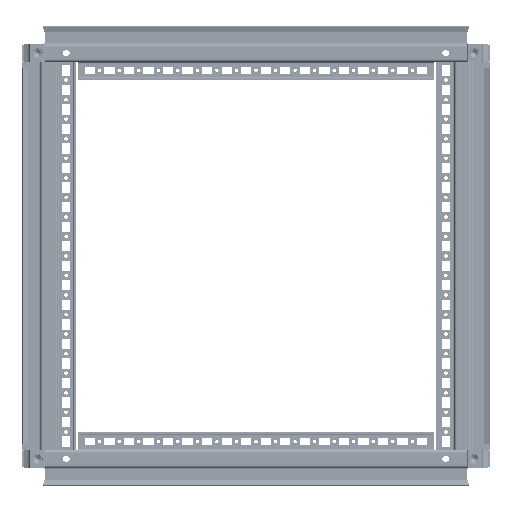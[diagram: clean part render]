
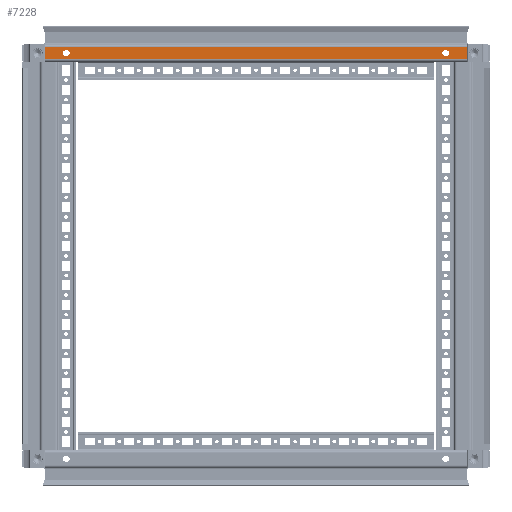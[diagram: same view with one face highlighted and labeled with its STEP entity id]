
A CAD part, front view. The second image highlights one B-rep face of the part: STEP entity #7228.
In plain terms, the highlighted planar face has unit normal (0, -1, 0) as drawn and (-1, 0, 0) by its records, which use the part's own axes.
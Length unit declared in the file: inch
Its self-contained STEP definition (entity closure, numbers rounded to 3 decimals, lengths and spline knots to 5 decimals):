
#231 = CARTESIAN_POINT ( 'NONE',  ( -0.09843, -0.31496, -10.64961 ) ) ;
#279 = CARTESIAN_POINT ( 'NONE',  ( -0.09843, 0.31496, -10.64961 ) ) ;
#284 = DIRECTION ( 'NONE',  ( 0., 1., 0. ) ) ;
#285 = VECTOR ( 'NONE', #284, 39.37008 ) ;
#286 = CARTESIAN_POINT ( 'NONE',  ( -0.09843, -1.07792, -10.64961 ) ) ;
#287 = LINE ( 'NONE', #286, #285 ) ;
#4942 = VERTEX_POINT ( 'NONE', #32457 ) ;
#4944 = EDGE_CURVE ( 'NONE', #4942, #4945, #32454, .T. ) ;
#4945 = VERTEX_POINT ( 'NONE', #32447 ) ;
#7180 = EDGE_LOOP ( 'NONE', ( #7181, #7281, #7282, #7284 ) ) ;
#7181 = ORIENTED_EDGE ( 'NONE', *, *, #7224, .T. ) ;
#7183 = ORIENTED_EDGE ( 'NONE', *, *, #7185, .F. ) ;
#7185 = EDGE_CURVE ( 'NONE', #7188, #7190, #34380, .T. ) ;
#7188 = VERTEX_POINT ( 'NONE', #34376 ) ;
#7190 = VERTEX_POINT ( 'NONE', #34375 ) ;
#7192 = ORIENTED_EDGE ( 'NONE', *, *, #7193, .F. ) ;
#7193 = EDGE_CURVE ( 'NONE', #7194, #7188, #34374, .T. ) ;
#7194 = VERTEX_POINT ( 'NONE', #34369 ) ;
#7195 = ORIENTED_EDGE ( 'NONE', *, *, #7196, .F. ) ;
#7196 = EDGE_CURVE ( 'NONE', #8957, #7194, #34368, .T. ) ;
#7198 = ORIENTED_EDGE ( 'NONE', *, *, #8956, .F. ) ;
#7201 = ORIENTED_EDGE ( 'NONE', *, *, #7203, .F. ) ;
#7203 = EDGE_CURVE ( 'NONE', #7190, #8954, #34362, .T. ) ;
#7204 = EDGE_LOOP ( 'NONE', ( #7205, #7308, #7315, #7317, #7318 ) ) ;
#7205 = ORIENTED_EDGE ( 'NONE', *, *, #7302, .F. ) ;
#7224 = EDGE_CURVE ( 'NONE', #4942, #19059, #34422, .T. ) ;
#7228 = ADVANCED_FACE ( 'NONE', ( #34418, #34417, #34416 ), #34415, .F. ) ;
#7230 = EDGE_LOOP ( 'NONE', ( #7183, #7192, #7195, #7198, #7201 ) ) ;
#7281 = ORIENTED_EDGE ( 'NONE', *, *, #19056, .F. ) ;
#7282 = ORIENTED_EDGE ( 'NONE', *, *, #7283, .F. ) ;
#7283 = EDGE_CURVE ( 'NONE', #4945, #19040, #34446, .T. ) ;
#7284 = ORIENTED_EDGE ( 'NONE', *, *, #4944, .F. ) ;
#7302 = EDGE_CURVE ( 'NONE', #7304, #7306, #34502, .T. ) ;
#7304 = VERTEX_POINT ( 'NONE', #34498 ) ;
#7306 = VERTEX_POINT ( 'NONE', #34497 ) ;
#7308 = ORIENTED_EDGE ( 'NONE', *, *, #7310, .F. ) ;
#7310 = EDGE_CURVE ( 'NONE', #7313, #7304, #34496, .T. ) ;
#7313 = VERTEX_POINT ( 'NONE', #34491 ) ;
#7315 = ORIENTED_EDGE ( 'NONE', *, *, #7316, .F. ) ;
#7316 = EDGE_CURVE ( 'NONE', #8942, #7313, #34490, .T. ) ;
#7317 = ORIENTED_EDGE ( 'NONE', *, *, #8941, .F. ) ;
#7318 = ORIENTED_EDGE ( 'NONE', *, *, #7320, .F. ) ;
#7320 = EDGE_CURVE ( 'NONE', #7306, #8939, #34486, .T. ) ;
#8939 = VERTEX_POINT ( 'NONE', #42643 ) ;
#8941 = EDGE_CURVE ( 'NONE', #8939, #8942, #42642, .T. ) ;
#8942 = VERTEX_POINT ( 'NONE', #42637 ) ;
#8954 = VERTEX_POINT ( 'NONE', #42607 ) ;
#8956 = EDGE_CURVE ( 'NONE', #8954, #8957, #42606, .T. ) ;
#8957 = VERTEX_POINT ( 'NONE', #42669 ) ;
#19040 = VERTEX_POINT ( 'NONE', #231 ) ;
#19056 = EDGE_CURVE ( 'NONE', #19040, #19059, #287, .T. ) ;
#19059 = VERTEX_POINT ( 'NONE', #279 ) ;
#32447 = CARTESIAN_POINT ( 'NONE',  ( -0.09843, -0.31496, 10.64961 ) ) ;
#32449 = DIRECTION ( 'NONE',  ( 0., -1., 0. ) ) ;
#32450 = VECTOR ( 'NONE', #32449, 39.37008 ) ;
#32452 = CARTESIAN_POINT ( 'NONE',  ( -0.09843, -1.07792, 10.64961 ) ) ;
#32454 = LINE ( 'NONE', #32452, #32450 ) ;
#32457 = CARTESIAN_POINT ( 'NONE',  ( -0.09843, 0.31496, 10.64961 ) ) ;
#34357 = DIRECTION ( 'NONE',  ( 0., 0., -1. ) ) ;
#34358 = DIRECTION ( 'NONE',  ( -1., 0., 0. ) ) ;
#34360 = CARTESIAN_POINT ( 'NONE',  ( -0.09843, 0., -9.52756 ) ) ;
#34361 = AXIS2_PLACEMENT_3D ( 'NONE', #34360, #34358, #34357 ) ;
#34362 = CIRCLE ( 'NONE', #34361, 0.14173 ) ;
#34364 = DIRECTION ( 'NONE',  ( 0., 0., -1. ) ) ;
#34365 = VECTOR ( 'NONE', #34364, 39.37008 ) ;
#34367 = CARTESIAN_POINT ( 'NONE',  ( -0.09843, 0.14173, -9.52756 ) ) ;
#34368 = LINE ( 'NONE', #34367, #34365 ) ;
#34369 = CARTESIAN_POINT ( 'NONE',  ( -0.09843, 0.14173, -9.6063 ) ) ;
#34370 = DIRECTION ( 'NONE',  ( 0., 0., 1. ) ) ;
#34371 = DIRECTION ( 'NONE',  ( -1., 0., 0. ) ) ;
#34372 = CARTESIAN_POINT ( 'NONE',  ( -0.09843, 0., -9.6063 ) ) ;
#34373 = AXIS2_PLACEMENT_3D ( 'NONE', #34372, #34371, #34370 ) ;
#34374 = CIRCLE ( 'NONE', #34373, 0.14173 ) ;
#34375 = CARTESIAN_POINT ( 'NONE',  ( -0.09843, -0.14173, -9.52756 ) ) ;
#34376 = CARTESIAN_POINT ( 'NONE',  ( -0.09843, -0.14173, -9.6063 ) ) ;
#34377 = DIRECTION ( 'NONE',  ( 0., 0., 1. ) ) ;
#34378 = VECTOR ( 'NONE', #34377, 39.37008 ) ;
#34379 = CARTESIAN_POINT ( 'NONE',  ( -0.09843, -0.14173, -9.52756 ) ) ;
#34380 = LINE ( 'NONE', #34379, #34378 ) ;
#34409 = DIRECTION ( 'NONE',  ( 0., 0., -1. ) ) ;
#34410 = DIRECTION ( 'NONE',  ( 1., 0., 0. ) ) ;
#34411 = CARTESIAN_POINT ( 'NONE',  ( -0.09843, -0.35433, 10.74803 ) ) ;
#34414 = AXIS2_PLACEMENT_3D ( 'NONE', #34411, #34410, #34409 ) ;
#34415 = PLANE ( 'NONE',  #34414 ) ;
#34416 = FACE_OUTER_BOUND ( 'NONE', #7180, .T. ) ;
#34417 = FACE_BOUND ( 'NONE', #7204, .T. ) ;
#34418 = FACE_BOUND ( 'NONE', #7230, .T. ) ;
#34419 = DIRECTION ( 'NONE',  ( 0., 0., -1. ) ) ;
#34420 = VECTOR ( 'NONE', #34419, 39.37008 ) ;
#34421 = CARTESIAN_POINT ( 'NONE',  ( -0.09843, 0.31496, 10.74803 ) ) ;
#34422 = LINE ( 'NONE', #34421, #34420 ) ;
#34443 = DIRECTION ( 'NONE',  ( 0., 0., -1. ) ) ;
#34444 = VECTOR ( 'NONE', #34443, 39.37008 ) ;
#34445 = CARTESIAN_POINT ( 'NONE',  ( -0.09843, -0.31496, 10.74803 ) ) ;
#34446 = LINE ( 'NONE', #34445, #34444 ) ;
#34482 = DIRECTION ( 'NONE',  ( 0., 0., -1. ) ) ;
#34483 = DIRECTION ( 'NONE',  ( -1., 0., 0. ) ) ;
#34484 = CARTESIAN_POINT ( 'NONE',  ( -0.09843, 0., 9.6063 ) ) ;
#34485 = AXIS2_PLACEMENT_3D ( 'NONE', #34484, #34483, #34482 ) ;
#34486 = CIRCLE ( 'NONE', #34485, 0.14173 ) ;
#34487 = DIRECTION ( 'NONE',  ( 0., 0., -1. ) ) ;
#34488 = VECTOR ( 'NONE', #34487, 39.37008 ) ;
#34489 = CARTESIAN_POINT ( 'NONE',  ( -0.09843, 0.14173, 9.52756 ) ) ;
#34490 = LINE ( 'NONE', #34489, #34488 ) ;
#34491 = CARTESIAN_POINT ( 'NONE',  ( -0.09843, 0.14173, 9.52756 ) ) ;
#34492 = DIRECTION ( 'NONE',  ( 0., 0., 1. ) ) ;
#34493 = DIRECTION ( 'NONE',  ( -1., 0., 0. ) ) ;
#34494 = CARTESIAN_POINT ( 'NONE',  ( -0.09843, 0., 9.52756 ) ) ;
#34495 = AXIS2_PLACEMENT_3D ( 'NONE', #34494, #34493, #34492 ) ;
#34496 = CIRCLE ( 'NONE', #34495, 0.14173 ) ;
#34497 = CARTESIAN_POINT ( 'NONE',  ( -0.09843, -0.14173, 9.6063 ) ) ;
#34498 = CARTESIAN_POINT ( 'NONE',  ( -0.09843, -0.14173, 9.52756 ) ) ;
#34499 = DIRECTION ( 'NONE',  ( 0., 0., 1. ) ) ;
#34500 = VECTOR ( 'NONE', #34499, 39.37008 ) ;
#34501 = CARTESIAN_POINT ( 'NONE',  ( -0.09843, -0.14173, 9.52756 ) ) ;
#34502 = LINE ( 'NONE', #34501, #34500 ) ;
#42606 = CIRCLE ( 'NONE', #42673, 0.14173 ) ;
#42607 = CARTESIAN_POINT ( 'NONE',  ( -0.09843, 0., -9.38583 ) ) ;
#42637 = CARTESIAN_POINT ( 'NONE',  ( -0.09843, 0.14173, 9.6063 ) ) ;
#42638 = DIRECTION ( 'NONE',  ( 0., 0., -1. ) ) ;
#42639 = DIRECTION ( 'NONE',  ( -1., 0., 0. ) ) ;
#42640 = CARTESIAN_POINT ( 'NONE',  ( -0.09843, 0., 9.6063 ) ) ;
#42641 = AXIS2_PLACEMENT_3D ( 'NONE', #42640, #42639, #42638 ) ;
#42642 = CIRCLE ( 'NONE', #42641, 0.14173 ) ;
#42643 = CARTESIAN_POINT ( 'NONE',  ( -0.09843, 0., 9.74803 ) ) ;
#42669 = CARTESIAN_POINT ( 'NONE',  ( -0.09843, 0.14173, -9.52756 ) ) ;
#42670 = DIRECTION ( 'NONE',  ( 0., 0., -1. ) ) ;
#42671 = DIRECTION ( 'NONE',  ( -1., 0., 0. ) ) ;
#42672 = CARTESIAN_POINT ( 'NONE',  ( -0.09843, 0., -9.52756 ) ) ;
#42673 = AXIS2_PLACEMENT_3D ( 'NONE', #42672, #42671, #42670 ) ;
